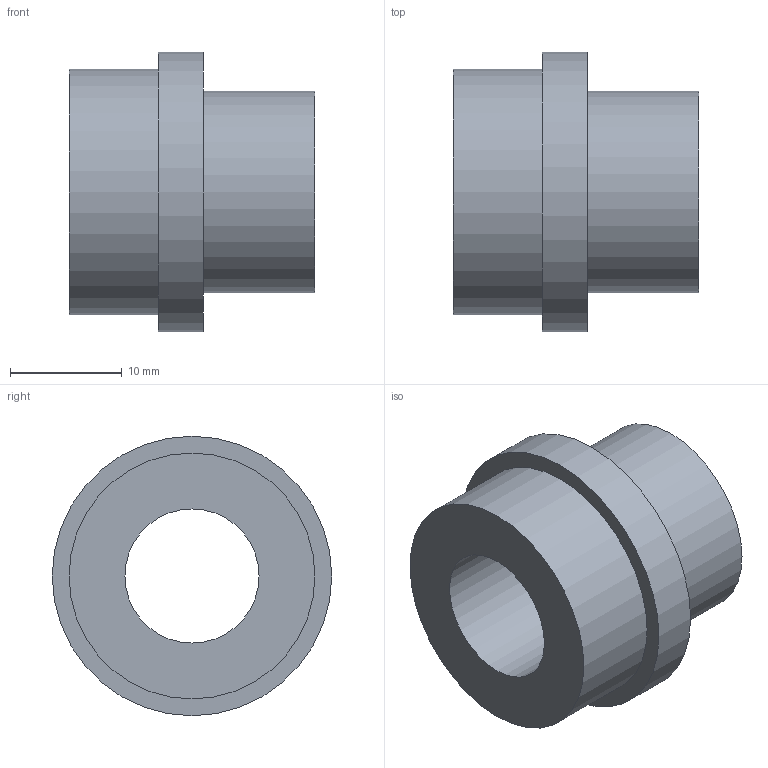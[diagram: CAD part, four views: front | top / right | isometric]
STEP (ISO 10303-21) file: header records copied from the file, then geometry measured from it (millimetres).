
FILE_DESCRIPTION(('Open CASCADE Model'),'2;1');
FILE_NAME('Open CASCADE Shape Model','2026-10-24T14:13:33',('Author'),( 'Open CASCADE'),'Open CASCADE STEP processor 7.9','Open CASCADE 7.9' ,'Unknown');
FILE_SCHEMA(('AUTOMOTIVE_DESIGN { 1 0 10303 214 1 1 1 1 }'));
Length unit declared in the file: millimetre
Products named in the file (1): Open CASCADE STEP translator 7.9 10
Bounding box: 22 x 25 x 25 mm (x, y, z)
Volume: 5061.1 mm3; surface area: 3017.5 mm2
Topology: 1 solids, 1 shells, 8 faces, 12 edges, 8 vertices
Faces by surface type: plane 4, cylinder 4
Full cylindrical faces by diameter (mm): 12 x1, 18 x1, 22 x1, 25 x1
Entity records: 354 total; most frequent: DIRECTION 62, CARTESIAN_POINT 53, ORIENTED_EDGE 24, PCURVE 24, DEFINITIONAL_REPRESENTATION 24, LINE 20, VECTOR 20, AXIS2_PLACEMENT_3D 17
